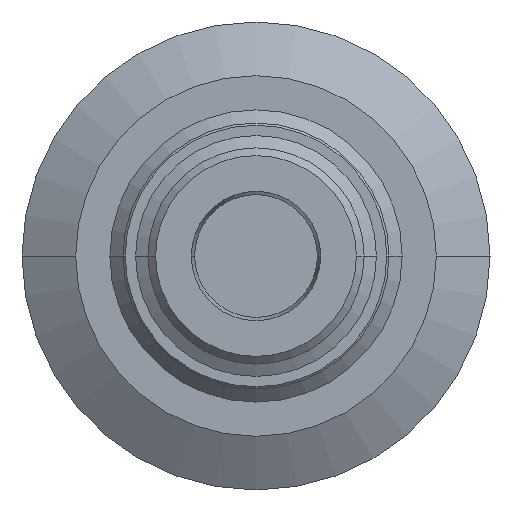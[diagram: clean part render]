
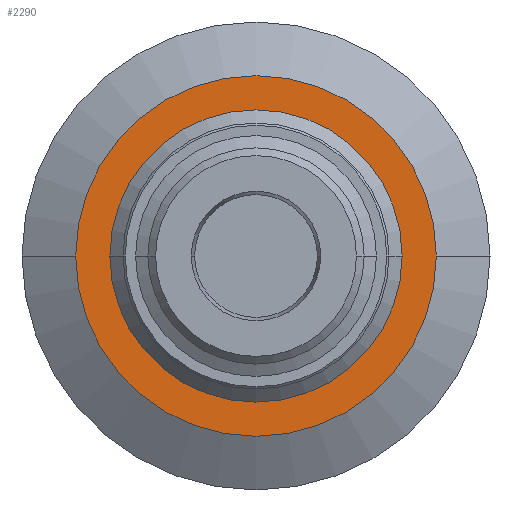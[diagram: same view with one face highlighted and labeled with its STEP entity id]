
A CAD part, left-side view. The second image highlights one B-rep face of the part: STEP entity #2290.
In plain terms, the highlighted planar face has unit normal (-1, 0, 0).
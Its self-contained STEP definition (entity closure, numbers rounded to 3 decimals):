
#319=CARTESIAN_POINT('',(0.,0.,0.));
#320=DIRECTION('',(1.,0.,0.));
#321=DIRECTION('',(0.,1.,0.));
#322=AXIS2_PLACEMENT_3D('',#319,#320,#321);
#324=CARTESIAN_POINT('',(0.,0.,0.));
#325=DIRECTION('',(1.,0.,0.));
#326=DIRECTION('',(0.,-1.,0.));
#327=AXIS2_PLACEMENT_3D('',#324,#325,#326);
#329=CARTESIAN_POINT('',(0.,0.,0.));
#330=DIRECTION('',(-1.,0.,0.));
#331=DIRECTION('',(0.,1.,0.));
#332=AXIS2_PLACEMENT_3D('',#329,#330,#331);
#334=CARTESIAN_POINT('',(0.,0.,0.));
#335=DIRECTION('',(-1.,0.,0.));
#336=DIRECTION('',(0.,-1.,0.));
#337=AXIS2_PLACEMENT_3D('',#334,#335,#336);
#1585=CARTESIAN_POINT('',(0.,11.75,0.));
#1586=VERTEX_POINT('',#1585);
#1587=CARTESIAN_POINT('',(0.,-11.75,0.));
#1588=VERTEX_POINT('',#1587);
#1589=CARTESIAN_POINT('',(0.,9.2,0.));
#1590=CARTESIAN_POINT('',(0.,-9.2,0.));
#1591=VERTEX_POINT('',#1589);
#1592=VERTEX_POINT('',#1590);
#2275=CARTESIAN_POINT('',(0.,0.,0.));
#2276=DIRECTION('',(1.,0.,0.));
#2277=DIRECTION('',(0.,-1.,0.));
#2278=AXIS2_PLACEMENT_3D('',#2275,#2276,#2277);
#2279=PLANE('',#2278);
#2280=ORIENTED_EDGE('',*,*,#2270,.T.);
#2281=ORIENTED_EDGE('',*,*,#2254,.T.);
#2282=EDGE_LOOP('',(#2280,#2281));
#2283=FACE_OUTER_BOUND('',#2282,.F.);
#2285=ORIENTED_EDGE('',*,*,#2284,.T.);
#2287=ORIENTED_EDGE('',*,*,#2286,.T.);
#2288=EDGE_LOOP('',(#2285,#2287));
#2289=FACE_BOUND('',#2288,.F.);
#323=CIRCLE('',#322,11.75);
#328=CIRCLE('',#327,11.75);
#333=CIRCLE('',#332,9.2);
#338=CIRCLE('',#337,9.2);
#2254=EDGE_CURVE('',#1588,#1586,#328,.T.);
#2270=EDGE_CURVE('',#1586,#1588,#323,.T.);
#2284=EDGE_CURVE('',#1591,#1592,#333,.T.);
#2286=EDGE_CURVE('',#1592,#1591,#338,.T.);
#2290=ADVANCED_FACE('',(#2283,#2289),#2279,.F.);
